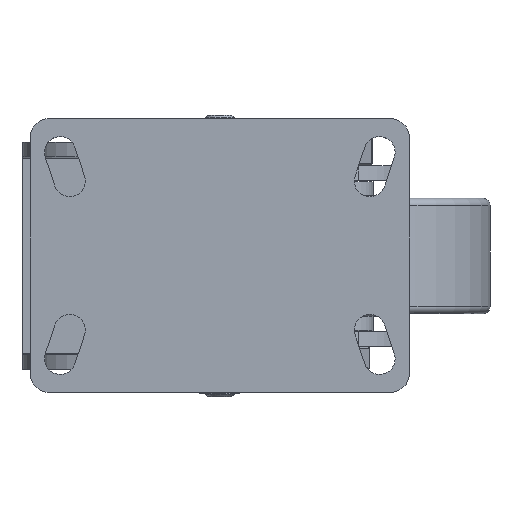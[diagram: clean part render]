
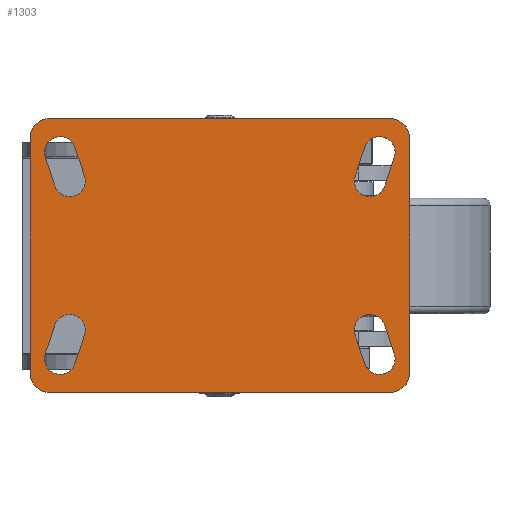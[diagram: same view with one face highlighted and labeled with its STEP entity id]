
A CAD part, top view. The second image highlights one B-rep face of the part: STEP entity #1303.
In plain terms, the highlighted planar face has unit normal (0, 0, 1).
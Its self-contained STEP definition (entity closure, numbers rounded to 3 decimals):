
#816=PLANE('',#14358);
#1165=FACE_BOUND('',#3256,.T.);
#1166=FACE_BOUND('',#3257,.T.);
#1167=FACE_BOUND('',#3258,.T.);
#1168=FACE_BOUND('',#3259,.T.);
#1169=FACE_BOUND('',#3260,.T.);
#1303=ADVANCED_FACE('',(#1165,#1166,#1167,#1168,#1169),#816,.T.);
#3256=EDGE_LOOP('',(#5519,#5520,#5521,#5522,#5523,#5524,#5525,#5526));
#3257=EDGE_LOOP('',(#5527,#5528,#5529,#5530));
#3258=EDGE_LOOP('',(#5531,#5532,#5533,#5534));
#3259=EDGE_LOOP('',(#5535,#5536,#5537,#5538));
#3260=EDGE_LOOP('',(#5539,#5540,#5541,#5542));
#4211=CIRCLE('',#14346,8.);
#4212=CIRCLE('',#14347,8.);
#4213=CIRCLE('',#14348,8.);
#4214=CIRCLE('',#14349,8.);
#4215=CIRCLE('',#14350,6.5);
#4216=CIRCLE('',#14351,6.5);
#4217=CIRCLE('',#14352,6.5);
#4218=CIRCLE('',#14353,6.5);
#4219=CIRCLE('',#14354,6.5);
#4220=CIRCLE('',#14355,6.5);
#4221=CIRCLE('',#14356,6.5);
#4222=CIRCLE('',#14357,6.5);
#5519=ORIENTED_EDGE('',*,*,#10717,.T.);
#5520=ORIENTED_EDGE('',*,*,#10718,.T.);
#5521=ORIENTED_EDGE('',*,*,#10719,.T.);
#5522=ORIENTED_EDGE('',*,*,#10720,.T.);
#5523=ORIENTED_EDGE('',*,*,#10721,.F.);
#5524=ORIENTED_EDGE('',*,*,#10722,.T.);
#5525=ORIENTED_EDGE('',*,*,#10723,.F.);
#5526=ORIENTED_EDGE('',*,*,#10724,.T.);
#5527=ORIENTED_EDGE('',*,*,#10725,.T.);
#5528=ORIENTED_EDGE('',*,*,#10726,.T.);
#5529=ORIENTED_EDGE('',*,*,#10727,.T.);
#5530=ORIENTED_EDGE('',*,*,#10728,.T.);
#5531=ORIENTED_EDGE('',*,*,#10729,.T.);
#5532=ORIENTED_EDGE('',*,*,#10730,.T.);
#5533=ORIENTED_EDGE('',*,*,#10731,.T.);
#5534=ORIENTED_EDGE('',*,*,#10732,.T.);
#5535=ORIENTED_EDGE('',*,*,#10733,.T.);
#5536=ORIENTED_EDGE('',*,*,#10734,.T.);
#5537=ORIENTED_EDGE('',*,*,#10735,.T.);
#5538=ORIENTED_EDGE('',*,*,#10736,.T.);
#5539=ORIENTED_EDGE('',*,*,#10737,.T.);
#5540=ORIENTED_EDGE('',*,*,#10738,.T.);
#5541=ORIENTED_EDGE('',*,*,#10739,.T.);
#5542=ORIENTED_EDGE('',*,*,#10716,.T.);
#9337=VERTEX_POINT('',#20674);
#9338=VERTEX_POINT('',#20676);
#9339=VERTEX_POINT('',#20680);
#9340=VERTEX_POINT('',#20681);
#9341=VERTEX_POINT('',#20683);
#9342=VERTEX_POINT('',#20685);
#9343=VERTEX_POINT('',#20687);
#9344=VERTEX_POINT('',#20689);
#9345=VERTEX_POINT('',#20691);
#9346=VERTEX_POINT('',#20693);
#9347=VERTEX_POINT('',#20696);
#9348=VERTEX_POINT('',#20697);
#9349=VERTEX_POINT('',#20699);
#9350=VERTEX_POINT('',#20701);
#9351=VERTEX_POINT('',#20704);
#9352=VERTEX_POINT('',#20705);
#9353=VERTEX_POINT('',#20707);
#9354=VERTEX_POINT('',#20709);
#9355=VERTEX_POINT('',#20712);
#9356=VERTEX_POINT('',#20713);
#9357=VERTEX_POINT('',#20715);
#9358=VERTEX_POINT('',#20717);
#9359=VERTEX_POINT('',#20720);
#9360=VERTEX_POINT('',#20722);
#10716=EDGE_CURVE('',#9337,#9338,#12492,.T.);
#10717=EDGE_CURVE('',#9339,#9340,#12493,.T.);
#10718=EDGE_CURVE('',#9340,#9341,#4211,.T.);
#10719=EDGE_CURVE('',#9341,#9342,#12494,.T.);
#10720=EDGE_CURVE('',#9342,#9343,#4212,.T.);
#10721=EDGE_CURVE('',#9344,#9343,#12495,.T.);
#10722=EDGE_CURVE('',#9344,#9345,#4213,.T.);
#10723=EDGE_CURVE('',#9346,#9345,#12496,.T.);
#10724=EDGE_CURVE('',#9346,#9339,#4214,.T.);
#10725=EDGE_CURVE('',#9347,#9348,#12497,.T.);
#10726=EDGE_CURVE('',#9348,#9349,#4215,.T.);
#10727=EDGE_CURVE('',#9349,#9350,#12498,.T.);
#10728=EDGE_CURVE('',#9350,#9347,#4216,.T.);
#10729=EDGE_CURVE('',#9351,#9352,#12499,.T.);
#10730=EDGE_CURVE('',#9352,#9353,#4217,.T.);
#10731=EDGE_CURVE('',#9353,#9354,#12500,.T.);
#10732=EDGE_CURVE('',#9354,#9351,#4218,.T.);
#10733=EDGE_CURVE('',#9355,#9356,#4219,.T.);
#10734=EDGE_CURVE('',#9356,#9357,#12501,.T.);
#10735=EDGE_CURVE('',#9357,#9358,#4220,.T.);
#10736=EDGE_CURVE('',#9358,#9355,#12502,.T.);
#10737=EDGE_CURVE('',#9338,#9359,#4221,.T.);
#10738=EDGE_CURVE('',#9359,#9360,#12503,.T.);
#10739=EDGE_CURVE('',#9360,#9337,#4222,.T.);
#12492=LINE('',#20677,#13387);
#12493=LINE('',#20679,#13388);
#12494=LINE('',#20684,#13389);
#12495=LINE('',#20688,#13390);
#12496=LINE('',#20692,#13391);
#12497=LINE('',#20695,#13392);
#12498=LINE('',#20700,#13393);
#12499=LINE('',#20703,#13394);
#12500=LINE('',#20708,#13395);
#12501=LINE('',#20714,#13396);
#12502=LINE('',#20718,#13397);
#12503=LINE('',#20721,#13398);
#13387=VECTOR('',#16306,1.);
#13388=VECTOR('',#16309,1.);
#13389=VECTOR('',#16312,1.);
#13390=VECTOR('',#16315,1.);
#13391=VECTOR('',#16318,1.);
#13392=VECTOR('',#16321,1.);
#13393=VECTOR('',#16324,1.);
#13394=VECTOR('',#16327,1.);
#13395=VECTOR('',#16330,1.);
#13396=VECTOR('',#16335,1.);
#13397=VECTOR('',#16338,1.);
#13398=VECTOR('',#16341,1.);
#14346=AXIS2_PLACEMENT_3D('',#20682,#16310,#16311);
#14347=AXIS2_PLACEMENT_3D('',#20686,#16313,#16314);
#14348=AXIS2_PLACEMENT_3D('',#20690,#16316,#16317);
#14349=AXIS2_PLACEMENT_3D('',#20694,#16319,#16320);
#14350=AXIS2_PLACEMENT_3D('',#20698,#16322,#16323);
#14351=AXIS2_PLACEMENT_3D('',#20702,#16325,#16326);
#14352=AXIS2_PLACEMENT_3D('',#20706,#16328,#16329);
#14353=AXIS2_PLACEMENT_3D('',#20710,#16331,#16332);
#14354=AXIS2_PLACEMENT_3D('',#20711,#16333,#16334);
#14355=AXIS2_PLACEMENT_3D('',#20716,#16336,#16337);
#14356=AXIS2_PLACEMENT_3D('',#20719,#16339,#16340);
#14357=AXIS2_PLACEMENT_3D('',#20723,#16342,#16343);
#14358=AXIS2_PLACEMENT_3D('',#20724,#16344,#16345);
#16306=DIRECTION('',(0.316,0.949,0.));
#16309=DIRECTION('',(1.,0.,0.));
#16310=DIRECTION('',(0.,0.,1.));
#16311=DIRECTION('',(0.,-1.,0.));
#16312=DIRECTION('',(0.,1.,0.));
#16313=DIRECTION('',(0.,0.,1.));
#16314=DIRECTION('',(1.,0.,0.));
#16315=DIRECTION('',(1.,0.,0.));
#16316=DIRECTION('',(0.,0.,1.));
#16317=DIRECTION('',(0.,1.,0.));
#16318=DIRECTION('',(0.,1.,0.));
#16319=DIRECTION('',(0.,0.,1.));
#16320=DIRECTION('',(-1.,0.,0.));
#16321=DIRECTION('',(-0.316,0.949,0.));
#16322=DIRECTION('',(0.,0.,-1.));
#16323=DIRECTION('',(-0.949,-0.316,0.));
#16324=DIRECTION('',(0.316,-0.949,0.));
#16325=DIRECTION('',(0.,0.,-1.));
#16326=DIRECTION('',(0.949,0.316,0.));
#16327=DIRECTION('',(0.316,-0.949,0.));
#16328=DIRECTION('',(0.,0.,-1.));
#16329=DIRECTION('',(0.949,0.316,0.));
#16330=DIRECTION('',(-0.316,0.949,0.));
#16331=DIRECTION('',(0.,0.,-1.));
#16332=DIRECTION('',(-0.949,-0.316,0.));
#16333=DIRECTION('',(0.,0.,-1.));
#16334=DIRECTION('',(0.949,-0.316,0.));
#16335=DIRECTION('',(0.316,0.949,0.));
#16336=DIRECTION('',(0.,0.,-1.));
#16337=DIRECTION('',(-0.949,0.316,0.));
#16338=DIRECTION('',(-0.316,-0.949,0.));
#16339=DIRECTION('',(0.,0.,-1.));
#16340=DIRECTION('',(-0.949,0.316,0.));
#16341=DIRECTION('',(-0.316,-0.949,0.));
#16342=DIRECTION('',(0.,0.,-1.));
#16343=DIRECTION('',(0.949,-0.316,0.));
#16344=DIRECTION('',(0.,0.,1.));
#16345=DIRECTION('',(-1.,0.,0.));
#20674=CARTESIAN_POINT('',(-72.666,-40.945,0.));
#20676=CARTESIAN_POINT('',(-68.666,-28.945,0.));
#20677=CARTESIAN_POINT('',(-72.666,-40.945,0.));
#20679=CARTESIAN_POINT('',(-71.,-57.,0.));
#20680=CARTESIAN_POINT('',(-71.,-57.,0.));
#20681=CARTESIAN_POINT('',(71.,-57.,0.));
#20682=CARTESIAN_POINT('',(71.,-49.,0.));
#20683=CARTESIAN_POINT('',(79.,-49.,0.));
#20684=CARTESIAN_POINT('',(79.,-49.,0.));
#20685=CARTESIAN_POINT('',(79.,49.,0.));
#20686=CARTESIAN_POINT('',(71.,49.,0.));
#20687=CARTESIAN_POINT('',(71.,57.,0.));
#20688=CARTESIAN_POINT('',(-71.,57.,0.));
#20689=CARTESIAN_POINT('',(-71.,57.,0.));
#20690=CARTESIAN_POINT('',(-71.,49.,0.));
#20691=CARTESIAN_POINT('',(-79.,49.,0.));
#20692=CARTESIAN_POINT('',(-79.,-49.,0.));
#20693=CARTESIAN_POINT('',(-79.,-49.,0.));
#20694=CARTESIAN_POINT('',(-71.,-49.,0.));
#20695=CARTESIAN_POINT('',(60.334,-45.055,0.));
#20696=CARTESIAN_POINT('',(60.334,-45.055,0.));
#20697=CARTESIAN_POINT('',(56.334,-33.055,0.));
#20698=CARTESIAN_POINT('',(62.5,-31.,0.));
#20699=CARTESIAN_POINT('',(68.666,-28.945,0.));
#20700=CARTESIAN_POINT('',(68.666,-28.945,0.));
#20701=CARTESIAN_POINT('',(72.666,-40.945,0.));
#20702=CARTESIAN_POINT('',(66.5,-43.,0.));
#20703=CARTESIAN_POINT('',(-60.334,45.055,0.));
#20704=CARTESIAN_POINT('',(-60.334,45.055,0.));
#20705=CARTESIAN_POINT('',(-56.334,33.055,0.));
#20706=CARTESIAN_POINT('',(-62.5,31.,0.));
#20707=CARTESIAN_POINT('',(-68.666,28.945,0.));
#20708=CARTESIAN_POINT('',(-68.666,28.945,0.));
#20709=CARTESIAN_POINT('',(-72.666,40.945,0.));
#20710=CARTESIAN_POINT('',(-66.5,43.,0.));
#20711=CARTESIAN_POINT('',(62.5,31.,0.));
#20712=CARTESIAN_POINT('',(68.666,28.945,0.));
#20713=CARTESIAN_POINT('',(56.334,33.055,0.));
#20714=CARTESIAN_POINT('',(56.334,33.055,0.));
#20715=CARTESIAN_POINT('',(60.334,45.055,0.));
#20716=CARTESIAN_POINT('',(66.5,43.,0.));
#20717=CARTESIAN_POINT('',(72.666,40.945,0.));
#20718=CARTESIAN_POINT('',(72.666,40.945,0.));
#20719=CARTESIAN_POINT('',(-62.5,-31.,0.));
#20720=CARTESIAN_POINT('',(-56.334,-33.055,0.));
#20721=CARTESIAN_POINT('',(-56.334,-33.055,0.));
#20722=CARTESIAN_POINT('',(-60.334,-45.055,0.));
#20723=CARTESIAN_POINT('',(-66.5,-43.,0.));
#20724=CARTESIAN_POINT('',(-79.,-57.,0.));
